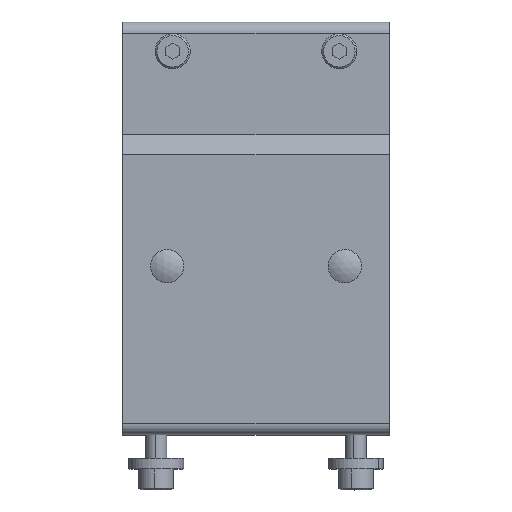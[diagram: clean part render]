
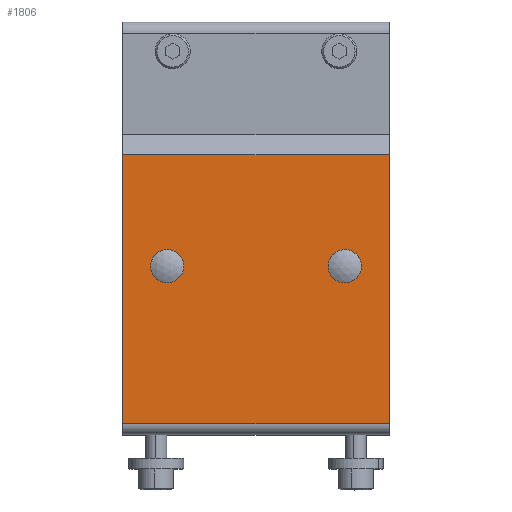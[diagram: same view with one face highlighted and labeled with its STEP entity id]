
A CAD part, top view. The second image highlights one B-rep face of the part: STEP entity #1806.
In plain terms, the highlighted planar face has unit normal (0, 0, 1) as drawn and (0, 0, -1) by its records, which use the part's own axes.
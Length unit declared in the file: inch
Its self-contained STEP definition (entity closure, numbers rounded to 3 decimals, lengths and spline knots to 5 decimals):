
#1042=DIRECTION('',(0.,-1.,0.));
#1043=VECTOR('',#1042,3.03);
#1044=CARTESIAN_POINT('',(-1.5,0.831,-0.6045));
#1045=LINE('',#1044,#1043);
#1140=DIRECTION('',(0.,-1.,0.));
#1141=VECTOR('',#1140,3.03);
#1142=CARTESIAN_POINT('',(1.5,0.831,-0.6045));
#1143=LINE('',#1142,#1141);
#1144=DIRECTION('',(1.,0.,0.));
#1145=VECTOR('',#1144,3.);
#1146=CARTESIAN_POINT('',(-1.5,0.831,-0.6045));
#1147=LINE('',#1146,#1145);
#1148=CARTESIAN_POINT('',(1.,-0.426,-0.6045));
#1149=DIRECTION('',(0.,0.,1.));
#1150=DIRECTION('',(1.,0.,0.));
#1151=AXIS2_PLACEMENT_3D('',#1148,#1149,#1150);
#1153=CARTESIAN_POINT('',(1.,-0.426,-0.6045));
#1154=DIRECTION('',(0.,0.,1.));
#1155=DIRECTION('',(-1.,0.,0.));
#1156=AXIS2_PLACEMENT_3D('',#1153,#1154,#1155);
#1158=CARTESIAN_POINT('',(-1.,-0.426,-0.6045));
#1159=DIRECTION('',(0.,0.,1.));
#1160=DIRECTION('',(1.,0.,0.));
#1161=AXIS2_PLACEMENT_3D('',#1158,#1159,#1160);
#1163=CARTESIAN_POINT('',(-1.,-0.426,-0.6045));
#1164=DIRECTION('',(0.,0.,1.));
#1165=DIRECTION('',(-1.,0.,0.));
#1166=AXIS2_PLACEMENT_3D('',#1163,#1164,#1165);
#1502=DIRECTION('',(1.,0.,0.));
#1503=VECTOR('',#1502,3.);
#1504=CARTESIAN_POINT('',(-1.5,-2.199,-0.6045));
#1505=LINE('',#1504,#1503);
#1568=CARTESIAN_POINT('',(1.5,0.831,-0.6045));
#1569=CARTESIAN_POINT('',(1.5,-2.199,-0.6045));
#1570=VERTEX_POINT('',#1568);
#1571=VERTEX_POINT('',#1569);
#1576=CARTESIAN_POINT('',(1.097,-0.426,-0.6045));
#1577=VERTEX_POINT('',#1576);
#1589=CARTESIAN_POINT('',(-0.903,-0.426,-0.6045));
#1591=VERTEX_POINT('',#1589);
#1604=CARTESIAN_POINT('',(-1.097,-0.426,-0.6045));
#1605=VERTEX_POINT('',#1604);
#1610=CARTESIAN_POINT('',(-1.5,-2.199,-0.6045));
#1611=VERTEX_POINT('',#1610);
#1616=CARTESIAN_POINT('',(0.903,-0.426,-0.6045));
#1617=VERTEX_POINT('',#1616);
#1640=CARTESIAN_POINT('',(-1.5,0.831,-0.6045));
#1641=VERTEX_POINT('',#1640);
#1780=CARTESIAN_POINT('',(1.5,-2.324,-0.6045));
#1781=DIRECTION('',(0.,0.,1.));
#1782=DIRECTION('',(1.,0.,0.));
#1783=AXIS2_PLACEMENT_3D('',#1780,#1781,#1782);
#1784=PLANE('',#1783);
#1786=ORIENTED_EDGE('',*,*,#1785,.F.);
#1788=ORIENTED_EDGE('',*,*,#1787,.F.);
#1789=ORIENTED_EDGE('',*,*,#1730,.T.);
#1791=ORIENTED_EDGE('',*,*,#1790,.T.);
#1792=EDGE_LOOP('',(#1786,#1788,#1789,#1791));
#1793=FACE_OUTER_BOUND('',#1792,.F.);
#1795=ORIENTED_EDGE('',*,*,#1794,.F.);
#1797=ORIENTED_EDGE('',*,*,#1796,.F.);
#1798=EDGE_LOOP('',(#1795,#1797));
#1799=FACE_BOUND('',#1798,.F.);
#1801=ORIENTED_EDGE('',*,*,#1800,.F.);
#1803=ORIENTED_EDGE('',*,*,#1802,.F.);
#1804=EDGE_LOOP('',(#1801,#1803));
#1805=FACE_BOUND('',#1804,.F.);
#1152=CIRCLE('',#1151,0.097);
#1157=CIRCLE('',#1156,0.097);
#1162=CIRCLE('',#1161,0.097);
#1167=CIRCLE('',#1166,0.097);
#1730=EDGE_CURVE('',#1641,#1611,#1045,.T.);
#1785=EDGE_CURVE('',#1570,#1571,#1143,.T.);
#1787=EDGE_CURVE('',#1641,#1570,#1147,.T.);
#1790=EDGE_CURVE('',#1611,#1571,#1505,.T.);
#1794=EDGE_CURVE('',#1577,#1617,#1152,.T.);
#1796=EDGE_CURVE('',#1617,#1577,#1157,.T.);
#1800=EDGE_CURVE('',#1591,#1605,#1162,.T.);
#1802=EDGE_CURVE('',#1605,#1591,#1167,.T.);
#1806=ADVANCED_FACE('',(#1793,#1799,#1805),#1784,.F.);
